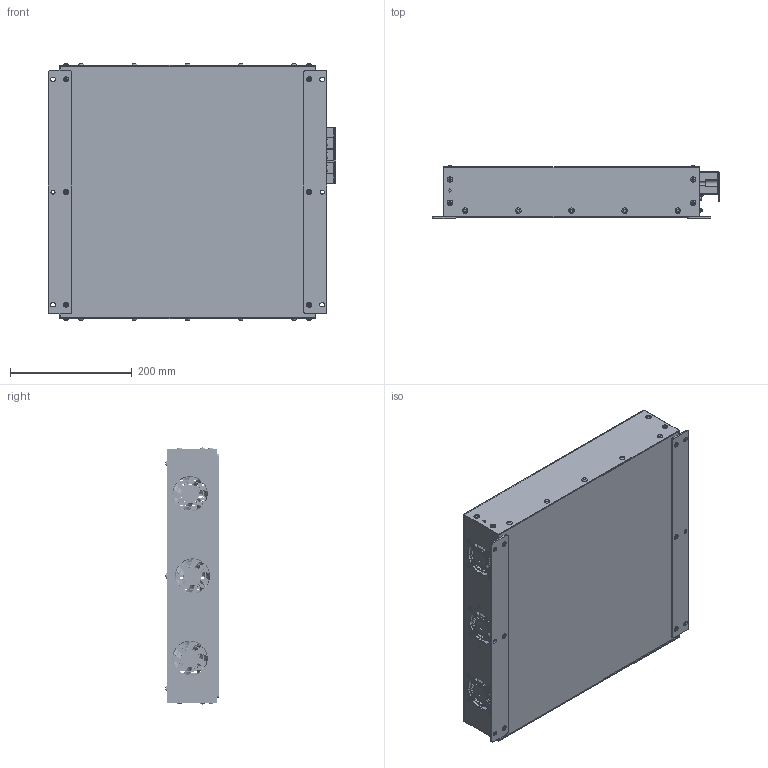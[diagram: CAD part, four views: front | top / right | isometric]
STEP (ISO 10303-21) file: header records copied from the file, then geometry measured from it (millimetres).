
FILE_DESCRIPTION(/* description */ (''),/* implementation_level */ '2;1');
FILE_NAME(/* name */ '',/* time_stamp */ '2026-06-05T11:46:43+09:00',/* author */ ('Administrator'),/* organization */ (''),/* preprocessor_version */ 'ST-DEVELOPER v20.1',/* originating_system */ 'Autodesk Inventor 2026',/* authorisation */ '');
FILE_SCHEMA (('AUTOMOTIVE_DESIGN { 1 0 10303 214 3 1 1 }'));
Products named in the file (1): OLED_VW3COM_2026.05.28_단순화_2
Bounding box: 471.28 x 87.95 x 421.84 mm (x, y, z)
Volume: 913278.4 mm3; surface area: 1152975.5 mm2
Topology: 21 solids, 21 shells, 6143 faces, 16218 edges, 10575 vertices
Faces by surface type: plane 3319, cylinder 1327, bspline 1235, torus 154, cone 77, sphere 31
Full cylindrical faces by diameter (mm): 0.013 x9, 0.6 x3, 0.609 x1, 0.61 x27, 0.635 x9, 0.7 x18, 0.75 x18, 0.85 x3, 0.9 x24, 1 x5, 1.397 x9, 1.5 x4, 2.1 x3, 2.286 x9, 2.5 x4, 2.8 x12, 2.957 x12, 3 x6, 3.048 x4, 3.3 x4, 3.4 x5, 3.6 x2, 3.783 x2, 3.8 x48, 3.9 x2, 4 x14, 4.3 x12, 4.5 x12, 5 x19, 5.3 x20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
Entity records: 224964 total; most frequent: CARTESIAN_POINT 71847, ORIENTED_EDGE 32388, DIRECTION 26799, EDGE_CURVE 16194, VERTEX_POINT 10575, LINE 9853, VECTOR 9853, AXIS2_PLACEMENT_3D 8473
